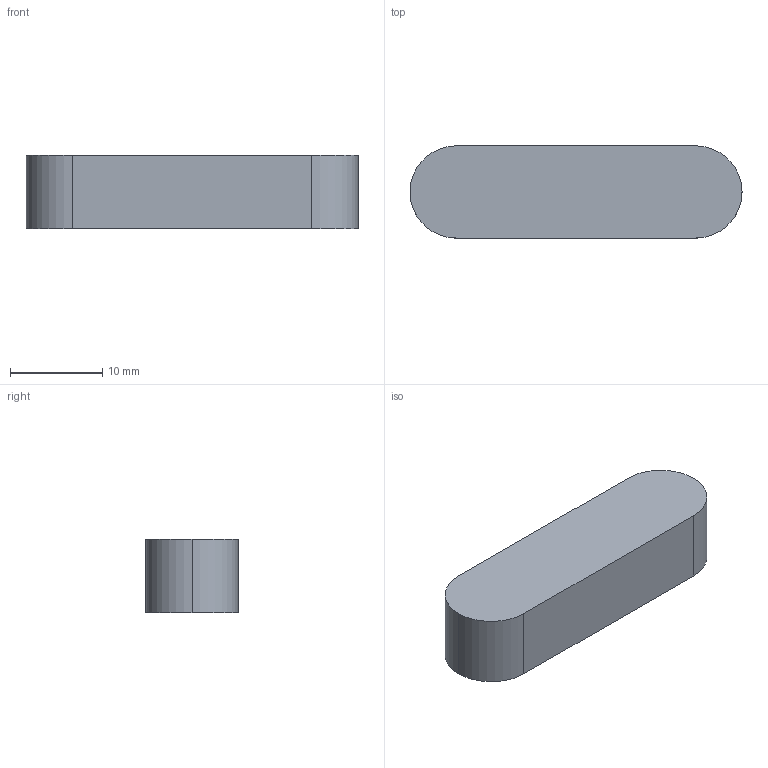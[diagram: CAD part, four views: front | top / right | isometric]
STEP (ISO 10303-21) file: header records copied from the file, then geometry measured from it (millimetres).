
FILE_DESCRIPTION (( 'STEP AP214' ), '1' );
FILE_NAME ('6885-10-8-36-A-NI.step', '2024-09-06T09:51:20', ( '' ), ( '' ), 'SwSTEP 2.0', 'SolidWorks 2022', '' );
FILE_SCHEMA (( 'AUTOMOTIVE_DESIGN' ));
Length unit declared in the file: millimetre
Products named in the file (1): 6885-10-8-36-A-NI
Bounding box: 36 x 10 x 8 mm (x, y, z)
Volume: 2708.3 mm3; surface area: 1344.4 mm2
Topology: 1 solids, 1 shells, 7 faces, 15 edges, 10 vertices
Faces by surface type: plane 4, cylinder 3
Entity records: 229 total; most frequent: DIRECTION 37, CARTESIAN_POINT 33, ORIENTED_EDGE 30, EDGE_CURVE 15, AXIS2_PLACEMENT_3D 14, VERTEX_POINT 10, LINE 9, VECTOR 9
